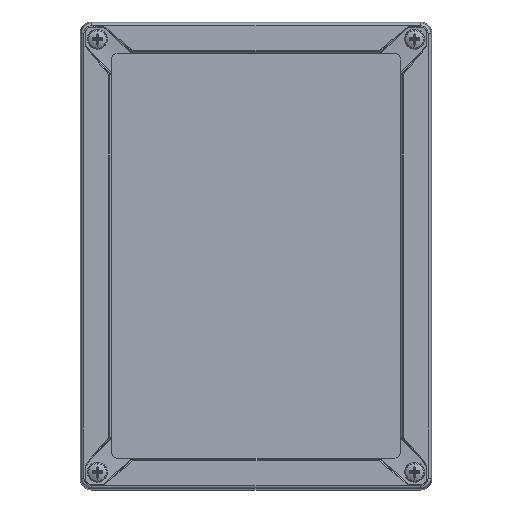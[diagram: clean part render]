
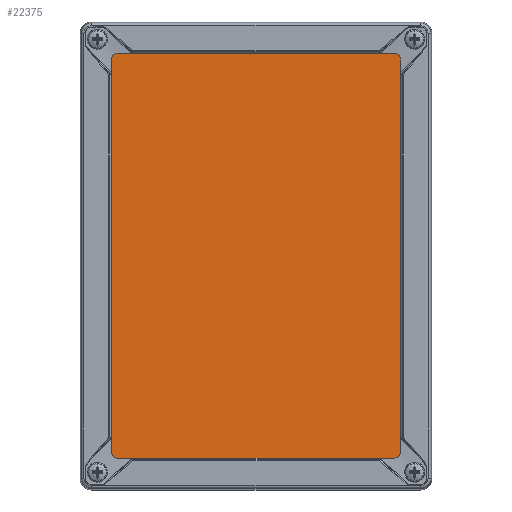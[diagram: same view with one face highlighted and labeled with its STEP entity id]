
A CAD part, top view. The second image highlights one B-rep face of the part: STEP entity #22375.
In plain terms, the highlighted planar face has unit normal (0, 0, 1).
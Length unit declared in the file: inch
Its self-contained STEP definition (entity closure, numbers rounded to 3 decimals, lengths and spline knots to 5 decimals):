
#1120 = CARTESIAN_POINT ( 'NONE',  ( -2.34252, 3.44488, 1.12967 ) ) ;
#2819 = VERTEX_POINT ( 'NONE', #33243 ) ;
#2864 = CIRCLE ( 'NONE', #61716, 0.11811 ) ;
#3105 = FACE_OUTER_BOUND ( 'NONE', #60037, .T. ) ;
#3743 = VECTOR ( 'NONE', #47042, 39.37008 ) ;
#4308 = VERTEX_POINT ( 'NONE', #21135 ) ;
#5223 = CARTESIAN_POINT ( 'NONE',  ( 2.46063, -3.32677, 1.12967 ) ) ;
#5508 = LINE ( 'NONE', #27530, #3743 ) ;
#6439 = ORIENTED_EDGE ( 'NONE', *, *, #29255, .T. ) ;
#6555 = CARTESIAN_POINT ( 'NONE',  ( -2.46063, -3.32677, 1.12967 ) ) ;
#7166 = CARTESIAN_POINT ( 'NONE',  ( 2.34252, -3.32677, 1.12967 ) ) ;
#9554 = LINE ( 'NONE', #54329, #51714 ) ;
#11848 = EDGE_CURVE ( 'NONE', #16998, #4308, #5508, .T. ) ;
#14280 = CARTESIAN_POINT ( 'NONE',  ( -2.34252, 3.32677, 1.12967 ) ) ;
#16998 = VERTEX_POINT ( 'NONE', #27253 ) ;
#17449 = CARTESIAN_POINT ( 'NONE',  ( 2.34252, 3.44488, 1.12967 ) ) ;
#17618 = DIRECTION ( 'NONE',  ( 0., 0., 1. ) ) ;
#17748 = DIRECTION ( 'NONE',  ( 0., 0., 1. ) ) ;
#19223 = ORIENTED_EDGE ( 'NONE', *, *, #51816, .T. ) ;
#19794 = ORIENTED_EDGE ( 'NONE', *, *, #43721, .T. ) ;
#21135 = CARTESIAN_POINT ( 'NONE',  ( 2.34252, -3.44488, 1.12967 ) ) ;
#22231 = VECTOR ( 'NONE', #66655, 39.37008 ) ;
#22375 = ADVANCED_FACE ( 'NONE', ( #3105 ), #68888, .T. ) ;
#22503 = ORIENTED_EDGE ( 'NONE', *, *, #24606, .T. ) ;
#23599 = VERTEX_POINT ( 'NONE', #47644 ) ;
#24606 = EDGE_CURVE ( 'NONE', #25801, #16998, #48584, .T. ) ;
#25440 = DIRECTION ( 'NONE',  ( 0., -1., 0. ) ) ;
#25801 = VERTEX_POINT ( 'NONE', #6555 ) ;
#25992 = DIRECTION ( 'NONE',  ( 0., 0., 1. ) ) ;
#26619 = CARTESIAN_POINT ( 'NONE',  ( 2.34252, 3.44488, 1.12967 ) ) ;
#27253 = CARTESIAN_POINT ( 'NONE',  ( -2.34252, -3.44488, 1.12967 ) ) ;
#27530 = CARTESIAN_POINT ( 'NONE',  ( -2.34252, -3.44488, 1.12967 ) ) ;
#28029 = VERTEX_POINT ( 'NONE', #26619 ) ;
#29103 = ORIENTED_EDGE ( 'NONE', *, *, #64722, .T. ) ;
#29255 = EDGE_CURVE ( 'NONE', #31303, #2819, #33046, .T. ) ;
#30908 = CARTESIAN_POINT ( 'NONE',  ( -2.34252, 3.32677, 1.12967 ) ) ;
#31303 = VERTEX_POINT ( 'NONE', #41648 ) ;
#32556 = CIRCLE ( 'NONE', #66030, 0.11811 ) ;
#33046 = LINE ( 'NONE', #5223, #22231 ) ;
#33243 = CARTESIAN_POINT ( 'NONE',  ( 2.46063, 3.32677, 1.12967 ) ) ;
#33371 = LINE ( 'NONE', #17449, #66870 ) ;
#33975 = AXIS2_PLACEMENT_3D ( 'NONE', #71175, #25992, #42264 ) ;
#34739 = CARTESIAN_POINT ( 'NONE',  ( -2.34252, -3.32677, 1.12967 ) ) ;
#35275 = DIRECTION ( 'NONE',  ( 0., 0., 1. ) ) ;
#36441 = ORIENTED_EDGE ( 'NONE', *, *, #46510, .T. ) ;
#36678 = DIRECTION ( 'NONE',  ( 1., 0., 0. ) ) ;
#39178 = AXIS2_PLACEMENT_3D ( 'NONE', #30908, #35275, #69252 ) ;
#41648 = CARTESIAN_POINT ( 'NONE',  ( 2.46063, -3.32677, 1.12967 ) ) ;
#42264 = DIRECTION ( 'NONE',  ( 1., 0., 0. ) ) ;
#43721 = EDGE_CURVE ( 'NONE', #50396, #23599, #2864, .T. ) ;
#46510 = EDGE_CURVE ( 'NONE', #4308, #31303, #32556, .T. ) ;
#47042 = DIRECTION ( 'NONE',  ( 1., 0., 0. ) ) ;
#47644 = CARTESIAN_POINT ( 'NONE',  ( -2.46063, 3.32677, 1.12967 ) ) ;
#48584 = CIRCLE ( 'NONE', #56682, 0.11811 ) ;
#49941 = ORIENTED_EDGE ( 'NONE', *, *, #63330, .T. ) ;
#50396 = VERTEX_POINT ( 'NONE', #1120 ) ;
#50891 = DIRECTION ( 'NONE',  ( 1., 0., 0. ) ) ;
#51714 = VECTOR ( 'NONE', #25440, 39.37008 ) ;
#51816 = EDGE_CURVE ( 'NONE', #2819, #28029, #65207, .T. ) ;
#54329 = CARTESIAN_POINT ( 'NONE',  ( -2.46063, 3.32677, 1.12967 ) ) ;
#54596 = ORIENTED_EDGE ( 'NONE', *, *, #11848, .T. ) ;
#56682 = AXIS2_PLACEMENT_3D ( 'NONE', #34739, #17748, #61853 ) ;
#58394 = DIRECTION ( 'NONE',  ( 0., 0., 1. ) ) ;
#60037 = EDGE_LOOP ( 'NONE', ( #19794, #49941, #22503, #54596, #36441, #6439, #19223, #29103 ) ) ;
#61716 = AXIS2_PLACEMENT_3D ( 'NONE', #14280, #58394, #36678 ) ;
#61853 = DIRECTION ( 'NONE',  ( 1., 0., 0. ) ) ;
#63330 = EDGE_CURVE ( 'NONE', #23599, #25801, #9554, .T. ) ;
#64722 = EDGE_CURVE ( 'NONE', #28029, #50396, #33371, .T. ) ;
#65207 = CIRCLE ( 'NONE', #33975, 0.11811 ) ;
#66030 = AXIS2_PLACEMENT_3D ( 'NONE', #7166, #17618, #50891 ) ;
#66655 = DIRECTION ( 'NONE',  ( 0., 1., 0. ) ) ;
#66870 = VECTOR ( 'NONE', #71335, 39.37008 ) ;
#68888 = PLANE ( 'NONE',  #39178 ) ;
#69252 = DIRECTION ( 'NONE',  ( 1., 0., 0. ) ) ;
#71175 = CARTESIAN_POINT ( 'NONE',  ( 2.34252, 3.32677, 1.12967 ) ) ;
#71335 = DIRECTION ( 'NONE',  ( -1., 0., 0. ) ) ;
